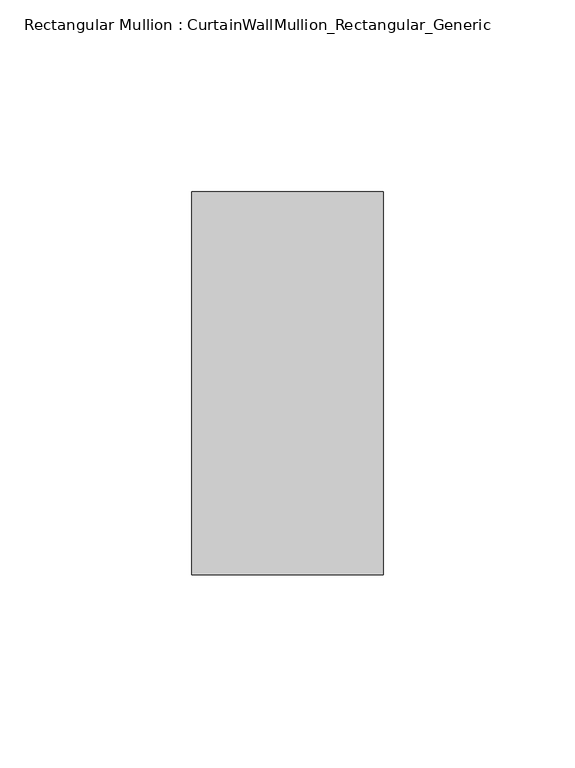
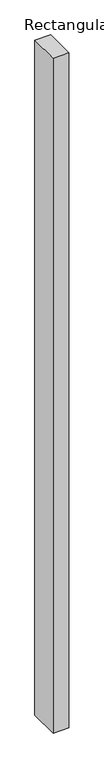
"""IFC4 building model written with IfcOpenShell, lengths in millimetres: member geometry, Rectangular Mullion : CurtainWallMullion_Rectangular_Generic."""

from ifc_helpers import new_model, si_unit, frame, origin, place, context, project, spatial, polyline, outline, extrude, source, transform, mapped, element, save


def rectangular_mullion_curtainwallmullion_rectangular_generic_b870b509(model_context):
    return source(origin(), model_context, "Body", "SweptSolid", [
        extrude(outline(polyline([(25.0, 50.0), (25.0, -50.0), (-25.0, -50.0), (-25.0, 50.0), (25.0, 50.0)])), frame((0.0, 0.0, -2277.2000002), z_axis=(0.0, 0.0, 1.0), x_axis=(1.0, 0.0, 0.0)), (0.0, 0.0, 1.0), 2277.2000002),
    ])


if __name__ == "__main__":
    model = new_model("IFC4")
    model_context = context("Model", 3, world=origin())
    ifc_project = project(units=[si_unit("LENGTHUNIT", "METRE", prefix="MILLI")], contexts=[model_context])
    site = spatial("IfcSite", under=ifc_project)
    building = spatial("IfcBuilding", under=site)
    placement = place(None, origin())
    rectangular_mullion_curtainwallmullion_rectangular_generic_shape = rectangular_mullion_curtainwallmullion_rectangular_generic_b870b509(model_context)
    element("IfcMember", 1, ObjectType="Rectangular Mullion : CurtainWallMullion_Rectangular_Generic", at=placement, inside=building, context=model_context, shape_type="MappedRepresentation", body=[
        mapped(rectangular_mullion_curtainwallmullion_rectangular_generic_shape, transform((0.0, 0.0, 0.0), x_axis=(1.0, 0.0, 0.0), y_axis=(0.0, 1.0, 0.0), z_axis=(0.0, 0.0, 1.0))),
    ])
    save(model, "model.ifc")
